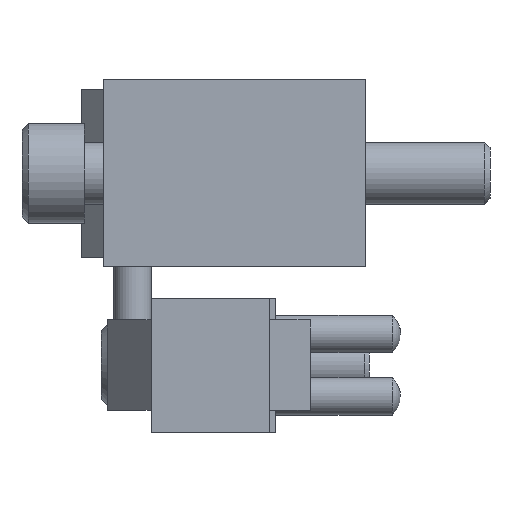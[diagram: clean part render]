
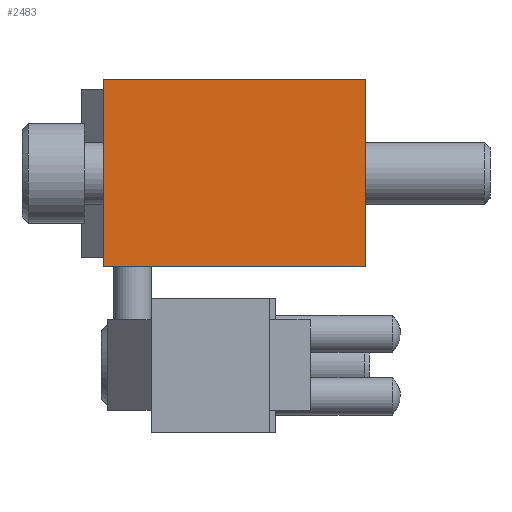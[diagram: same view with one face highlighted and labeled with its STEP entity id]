
A CAD part, left-side view. The second image highlights one B-rep face of the part: STEP entity #2483.
In plain terms, the highlighted planar face has unit normal (-1, 0, 0).
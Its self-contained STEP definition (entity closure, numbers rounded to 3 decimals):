
#2483 = ADVANCED_FACE( '', ( #5177 ), #5178, .F. );
#5177 = FACE_OUTER_BOUND( '', #8208, .T. );
#5178 = PLANE( '', #8209 );
#8208 = EDGE_LOOP( '', ( #14623, #14624, #14625, #14626 ) );
#8209 = AXIS2_PLACEMENT_3D( '', #14627, #14628, #14629 );
#14623 = ORIENTED_EDGE( '', *, *, #21480, .T. );
#14624 = ORIENTED_EDGE( '', *, *, #20032, .F. );
#14625 = ORIENTED_EDGE( '', *, *, #21516, .F. );
#14626 = ORIENTED_EDGE( '', *, *, #19043, .T. );
#14627 = CARTESIAN_POINT( '', ( 0., 42., -15. ) );
#14628 = DIRECTION( '', ( 1., 0., 0. ) );
#14629 = DIRECTION( '', ( 0., 0., -1. ) );
#19043 = EDGE_CURVE( '', #22938, #22936, #22939, .T. );
#20032 = EDGE_CURVE( '', #24669, #24664, #24671, .T. );
#21480 = EDGE_CURVE( '', #22936, #24664, #26827, .T. );
#21516 = EDGE_CURVE( '', #22938, #24669, #26873, .T. );
#22936 = VERTEX_POINT( '', #28647 );
#22938 = VERTEX_POINT( '', #28650 );
#22939 = LINE( '', #28651, #28652 );
#24664 = VERTEX_POINT( '', #31232 );
#24669 = VERTEX_POINT( '', #31239 );
#24671 = LINE( '', #31242, #31243 );
#26827 = LINE( '', #34429, #34430 );
#26873 = LINE( '', #34499, #34500 );
#28647 = CARTESIAN_POINT( '', ( 0., 0., -15. ) );
#28650 = CARTESIAN_POINT( '', ( 0., 42., -15. ) );
#28651 = CARTESIAN_POINT( '', ( 0., 42., -15. ) );
#28652 = VECTOR( '', #36475, 1000. );
#31232 = CARTESIAN_POINT( '', ( 0., 0., 15. ) );
#31239 = CARTESIAN_POINT( '', ( 0., 42., 15. ) );
#31242 = CARTESIAN_POINT( '', ( 0., 42., 15. ) );
#31243 = VECTOR( '', #37364, 1000. );
#34429 = CARTESIAN_POINT( '', ( 0., 0., -15. ) );
#34430 = VECTOR( '', #38554, 1000. );
#34499 = CARTESIAN_POINT( '', ( 0., 42., -15. ) );
#34500 = VECTOR( '', #38578, 1000. );
#36475 = DIRECTION( '', ( 0., -1., 0. ) );
#37364 = DIRECTION( '', ( 0., -1., 0. ) );
#38554 = DIRECTION( '', ( 0., 0., 1. ) );
#38578 = DIRECTION( '', ( 0., 0., 1. ) );
